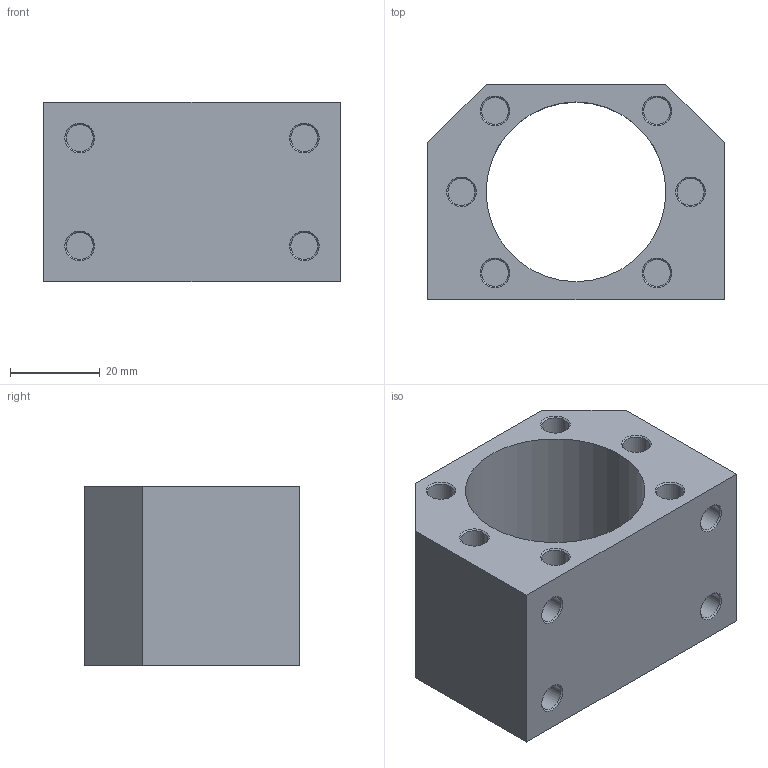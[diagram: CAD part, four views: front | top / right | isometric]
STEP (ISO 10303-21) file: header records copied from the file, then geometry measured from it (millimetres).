
FILE_DESCRIPTION (( 'STEP AP214' ), '1' );
FILE_NAME ('DSG25H.STEP', '2022-04-21T10:31:18', ( '' ), ( '' ), 'SwSTEP 2.0', 'SolidWorks 2019', '' );
FILE_SCHEMA (( 'AUTOMOTIVE_DESIGN' ));
Length unit declared in the file: millimetre
Products named in the file (1): DSG25H
Bounding box: 66 x 48 x 40 mm (x, y, z)
Volume: 66428.5 mm3; surface area: 19161.6 mm2
Topology: 1 solids, 1 shells, 60 faces, 132 edges, 84 vertices
Faces by surface type: cylinder 22, cone 20, plane 18
Entity records: 1930 total; most frequent: DIRECTION 326, CARTESIAN_POINT 277, ORIENTED_EDGE 264, AXIS2_PLACEMENT_3D 133, EDGE_CURVE 132, VERTEX_POINT 84, EDGE_LOOP 72, CIRCLE 72
